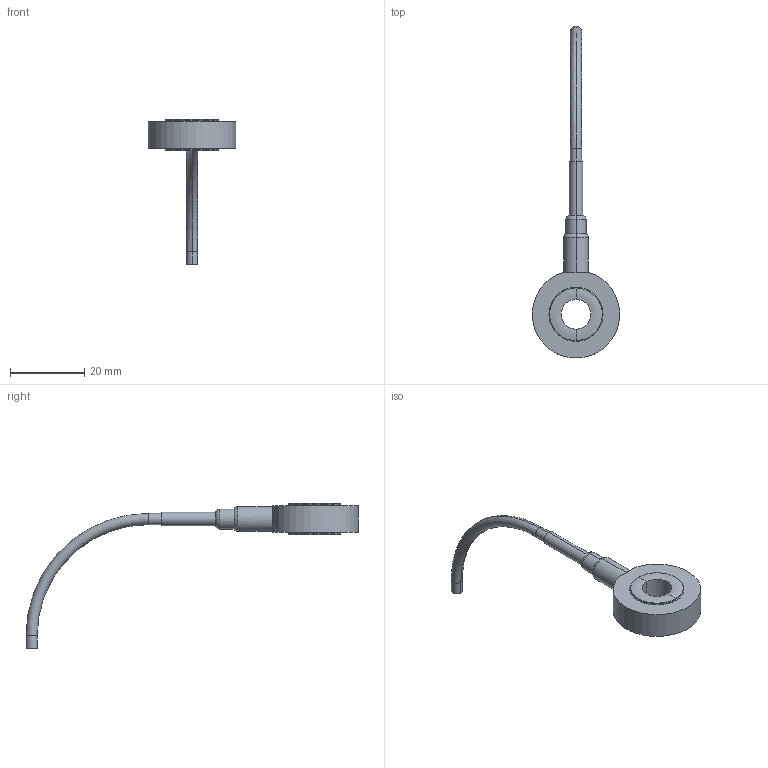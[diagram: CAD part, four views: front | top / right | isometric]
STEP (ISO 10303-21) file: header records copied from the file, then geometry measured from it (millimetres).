
FILE_DESCRIPTION((''),'2;1');
FILE_NAME('0_KMRP_40KN','2019-12-19T',('ESCHE'),(''),'CREO PARAMETRIC BY PTC INC, 2017170','CREO PARAMETRIC BY PTC INC, 2017170','');
FILE_SCHEMA(('AUTOMOTIVE_DESIGN { 1 0 10303 214 1 1 1 1 }'));
Length unit declared in the file: millimetre
Products named in the file (1): 0_KMRP_40KN
Bounding box: 23.53 x 89.6 x 39.25 mm (x, y, z)
Volume: 3932.5 mm3; surface area: 2536.5 mm2
Topology: 1 solids, 1 shells, 39 faces, 80 edges, 44 vertices
Faces by surface type: bspline 39
Entity records: 2099 total; most frequent: CARTESIAN_POINT 1284, ORIENTED_EDGE 160, DIRECTION 136, EDGE_CURVE 80, AXIS2_PLACEMENT_3D 56, CIRCLE 56, VERTEX_POINT 44, EDGE_LOOP 42
